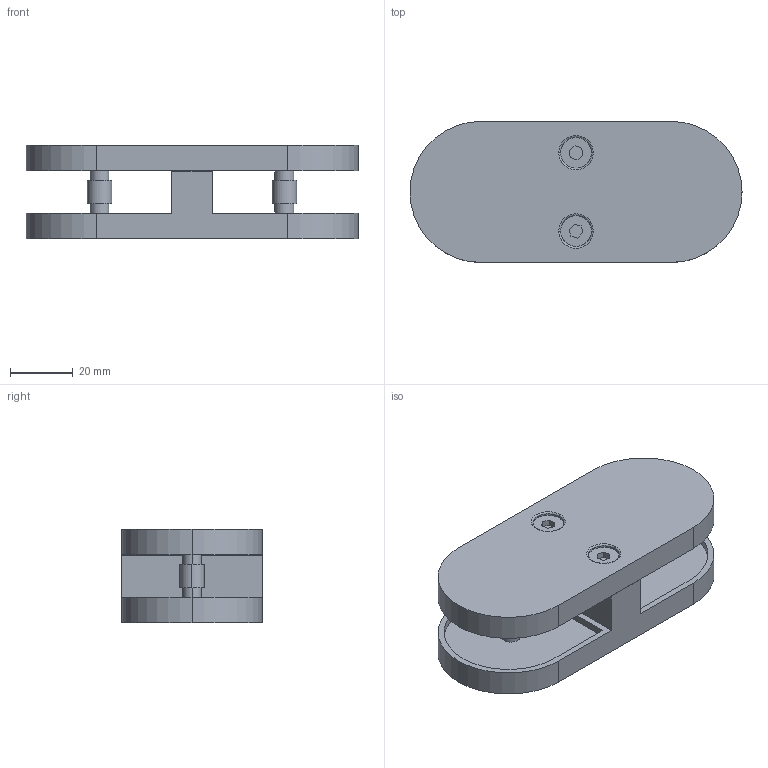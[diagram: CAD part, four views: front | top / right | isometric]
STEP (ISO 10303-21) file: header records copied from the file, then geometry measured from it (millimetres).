
FILE_DESCRIPTION (( 'STEP AP203' ), '1' );
FILE_NAME ('3D_GG4364 G_188758880.STEP', '2024-11-04T07:40:22', ( '' ), ( '' ), 'SwSTEP 2.0', 'SolidWorks 2023', '' );
FILE_SCHEMA (( 'CONFIG_CONTROL_DESIGN' ));
Length unit declared in the file: millimetre
Products named in the file (1): 3D_GG4364 G_188758880
Bounding box: 106 x 45 x 30 mm (x, y, z)
Volume: 66208.6 mm3; surface area: 27577.3 mm2
Topology: 6 solids, 6 shells, 114 faces, 248 edges, 164 vertices
Faces by surface type: plane 62, cylinder 48, torus 4
Entity records: 3219 total; most frequent: DIRECTION 582, CARTESIAN_POINT 527, ORIENTED_EDGE 496, EDGE_CURVE 248, AXIS2_PLACEMENT_3D 219, VERTEX_POINT 164, LINE 144, VECTOR 144
